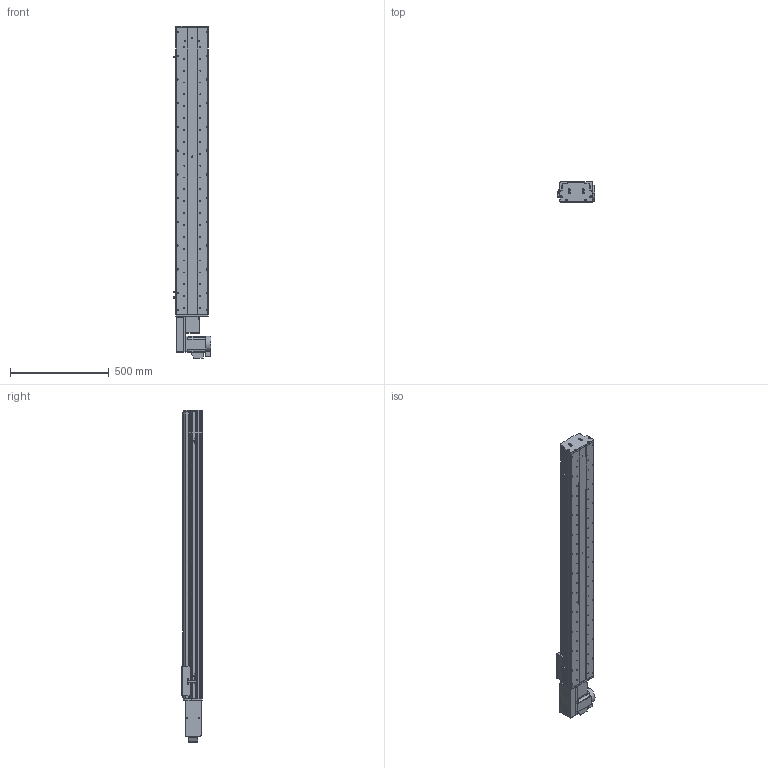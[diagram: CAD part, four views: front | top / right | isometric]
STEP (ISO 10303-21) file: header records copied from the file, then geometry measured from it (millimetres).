
FILE_DESCRIPTION (( 'STEP AP214' ), '1' );
FILE_NAME ('KSD165B-S1200-MLB-CM.STEP', '2017-10-16T06:26:57', ( '微软用户' ), ( '微软中国' ), 'SwSTEP 2.0', 'SolidWorks 2014', '' );
FILE_SCHEMA (( 'AUTOMOTIVE_DESIGN' ));
Length unit declared in the file: millimetre
Products named in the file (17): KSD165模组-后端板1-同步带; KSD165模组-同步带滑动座-最新版; KSD165B-S1200-MLB-CM; KSD165耀郪-ヶ傷啣1-肮祭湍; HTPA26S5M250-A-H8 750W萇儂蚚; HTPA26S5M250-A-H8 400W萇儂蚚 ; 130宽模组马达安装板连板左右折同步带; 130宽模组保护罩上下左右折-同步带; 165宽马达安装板同步带左-改; KSD165模组-同步带防尘盖1-1200行程; KSD165模组同步带底板-1200行程; 拸秶雄ん750W侜督萇儂; U倰嫖萇假蚾璃; U倰嫖萇EEㄜSX672; 覜茼え68遵圉猾敕; KSD165模组-同步带-防撞垫2; KSD165模组同步带-防撞垫1
Assembly tree (20 placements, depth 2):
  KSD165B-S1200-MLB-CM
    KSD165模组-同步带滑动座-最新版
    KSD165模组-后端板1-同步带
    KSD165耀郪-ヶ傷啣1-肮祭湍
    KSD165模组同步带-防撞垫1
    KSD165模组-同步带-防撞垫2
    覜茼え68遵圉猾敕
    U倰嫖萇EEㄜSX672  x3
    U倰嫖萇假蚾璃  x3
    拸秶雄ん750W侜督萇儂
    KSD165模组同步带底板-1200行程
    KSD165模组-同步带防尘盖1-1200行程
    165宽马达安装板同步带左-改
    130宽模组保护罩上下左右折-同步带
    130宽模组马达安装板连板左右折同步带
    HTPA26S5M250-A-H8 400W萇儂蚚 
    HTPA26S5M250-A-H8 750W萇儂蚚
Bounding box: 191.2 x 104 x 1678 mm (x, y, z)
Volume: 8816670 mm3; surface area: 2055350.1 mm2
Topology: 21 solids, 22 shells, 2011 faces, 5682 edges, 3712 vertices
Faces by surface type: cylinder 1305, plane 594, cone 112
Entity records: 65712 total; most frequent: CARTESIAN_POINT 13482, DIRECTION 10762, ORIENTED_EDGE 10024, EDGE_CURVE 5012, AXIS2_PLACEMENT_3D 4230, VERTEX_POINT 3304, CIRCLE 2416, LINE 2302
